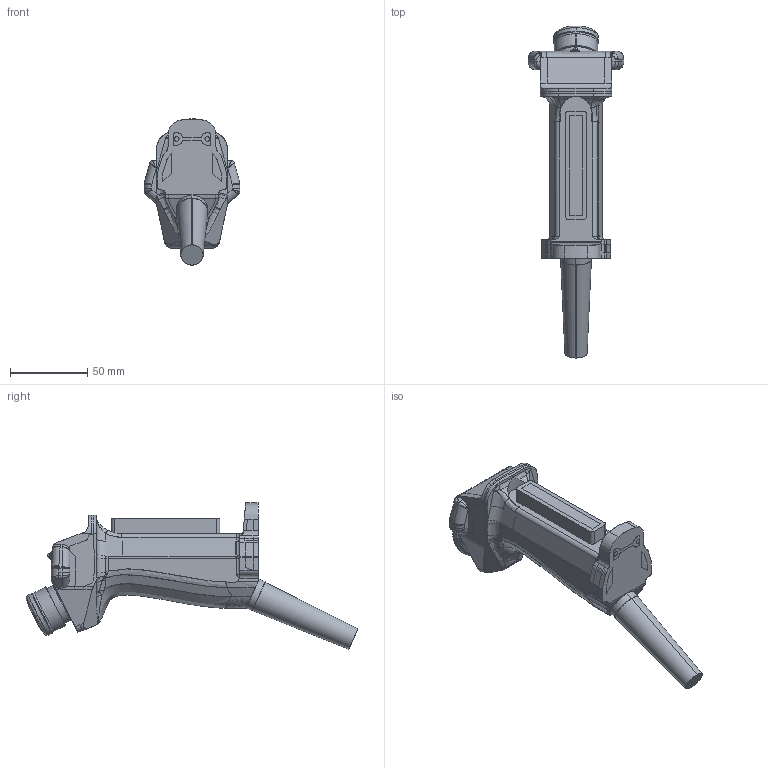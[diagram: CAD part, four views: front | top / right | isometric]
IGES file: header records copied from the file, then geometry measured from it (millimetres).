
Start section: SolidWorks IGES file using analytic representation for surfaces
Global section: file name: C:\catalog\sg-c1-21-eg.IGS; native system: SolidWorks 2019; preprocessor: SolidWorks 2019; author: 5131475; date: 230405.103915; units: millimetre
Bounding box: 62 x 214.59 x 94.55 mm (x, y, z)
Surface area: 34350.8 mm2 (no closed solid volume)
Topology: 0 solids, 0 shells, 444 faces, 5000 edges, 4977 vertices
Faces by surface type: bspline 330, revolution 114
